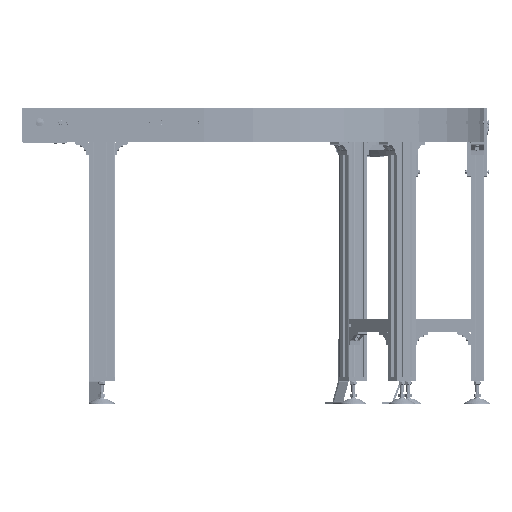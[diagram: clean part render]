
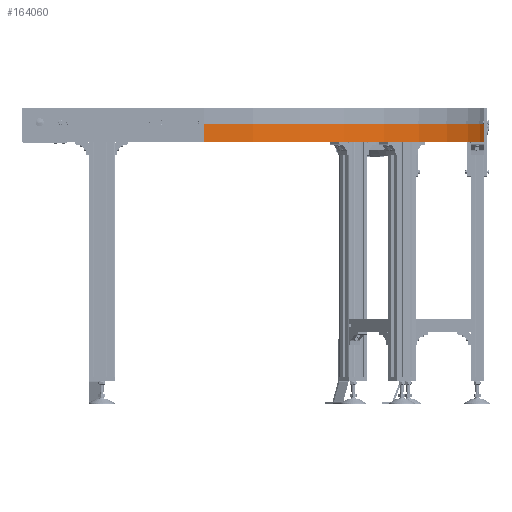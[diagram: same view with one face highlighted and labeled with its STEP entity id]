
A CAD part, front view. The second image highlights one B-rep face of the part: STEP entity #164060.
In plain terms, the highlighted cylindrical face has radius 855 mm (diameter 1710 mm), a partial arc.
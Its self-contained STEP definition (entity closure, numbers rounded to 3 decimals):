
#7958=LINE('',#249195,#23845);
#7989=LINE('',#249294,#23876);
#8033=LINE('',#249692,#23920);
#8034=LINE('',#249694,#23921);
#23845=VECTOR('',#200374,4.45);
#23876=VECTOR('',#200485,4.45);
#23920=VECTOR('',#200977,49.);
#23921=VECTOR('',#200980,49.);
#40168=CYLINDRICAL_SURFACE('',#175026,855.);
#46141=FACE_OUTER_BOUND('',#55281,.T.);
#55281=EDGE_LOOP('',(#121492,#121493,#121494,#121495,#121496,#121497));
#63951=CIRCLE('',#175021,855.);
#63956=CIRCLE('',#175027,855.);
#67563=VERTEX_POINT('',#229396);
#73186=VERTEX_POINT('',#249178);
#73189=VERTEX_POINT('',#249186);
#73215=VERTEX_POINT('',#249274);
#73346=VERTEX_POINT('',#249682);
#73347=VERTEX_POINT('',#249684);
#91076=EDGE_CURVE('',#73189,#73186,#7958,.T.);
#91123=EDGE_CURVE('',#73215,#67563,#7989,.T.);
#91336=EDGE_CURVE('',#73347,#73346,#63951,.T.);
#91341=EDGE_CURVE('',#73346,#73215,#8033,.T.);
#91342=EDGE_CURVE('',#73186,#67563,#63956,.T.);
#91343=EDGE_CURVE('',#73347,#73189,#8034,.T.);
#121492=ORIENTED_EDGE('',*,*,#91341,.T.);
#121493=ORIENTED_EDGE('',*,*,#91123,.T.);
#121494=ORIENTED_EDGE('',*,*,#91342,.F.);
#121495=ORIENTED_EDGE('',*,*,#91076,.F.);
#121496=ORIENTED_EDGE('',*,*,#91343,.F.);
#121497=ORIENTED_EDGE('',*,*,#91336,.T.);
#164060=ADVANCED_FACE('',(#46141),#40168,.T.);
#175021=AXIS2_PLACEMENT_3D('',#249685,#200965,#200966);
#175026=AXIS2_PLACEMENT_3D('',#249691,#200975,#200976);
#175027=AXIS2_PLACEMENT_3D('',#249693,#200978,#200979);
#200374=DIRECTION('',(0.,0.,1.));
#200485=DIRECTION('',(0.,0.,1.));
#200965=DIRECTION('center_axis',(0.,0.,
1.));
#200966=DIRECTION('ref_axis',(0.,-1.,0.));
#200975=DIRECTION('center_axis',(0.,0.,
1.));
#200976=DIRECTION('ref_axis',(0.,-1.,0.));
#200977=DIRECTION('',(0.,0.,1.));
#200978=DIRECTION('center_axis',(0.,0.,
1.));
#200979=DIRECTION('ref_axis',(0.,-1.,0.));
#200980=DIRECTION('',(0.,0.,1.));
#229396=CARTESIAN_POINT('',(1411.,727.5,54.45));
#249178=CARTESIAN_POINT('',(556.,-127.5,54.45));
#249186=CARTESIAN_POINT('',(556.,-127.5,50.));
#249195=CARTESIAN_POINT('',(556.,-127.5,1.));
#249274=CARTESIAN_POINT('',(1411.,727.5,50.));
#249294=CARTESIAN_POINT('',(1411.,727.5,1.));
#249682=CARTESIAN_POINT('',(1411.,727.5,1.));
#249684=CARTESIAN_POINT('',(556.,-127.5,1.));
#249685=CARTESIAN_POINT('Origin',(556.,727.5,1.));
#249691=CARTESIAN_POINT('Origin',(556.,727.5,27.725));
#249692=CARTESIAN_POINT('',(1411.,727.5,1.));
#249693=CARTESIAN_POINT('Origin',(556.,727.5,54.45));
#249694=CARTESIAN_POINT('',(556.,-127.5,1.));
